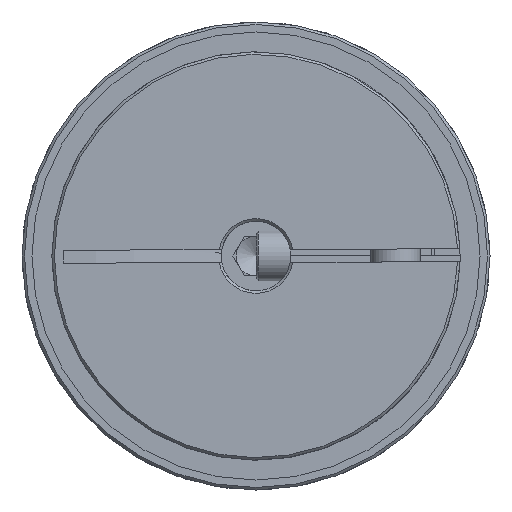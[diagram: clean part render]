
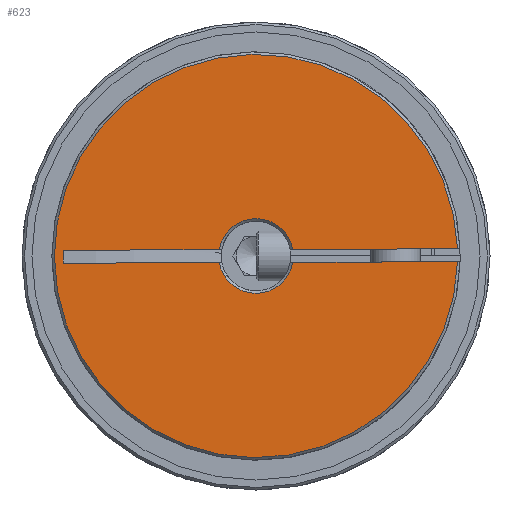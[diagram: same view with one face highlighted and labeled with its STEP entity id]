
A CAD part, left-side view. The second image highlights one B-rep face of the part: STEP entity #623.
In plain terms, the highlighted planar face has unit normal (-1, 0, 0).
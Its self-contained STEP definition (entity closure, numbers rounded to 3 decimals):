
#623 = ADVANCED_FACE( 'NONE', ( #1268 ), #1269, .F. );
#1268 = FACE_OUTER_BOUND( '', #1838, .T. );
#1269 = PLANE( '', #1839 );
#1838 = EDGE_LOOP( '', ( #2926, #2927, #2928, #2929, #2930, #2931, #2932, #2933 ) );
#1839 = AXIS2_PLACEMENT_3D( '', #2934, #2935, #2936 );
#2926 = ORIENTED_EDGE( '', *, *, #3384, .T. );
#2927 = ORIENTED_EDGE( '', *, *, #3386, .T. );
#2928 = ORIENTED_EDGE( '', *, *, #3387, .T. );
#2929 = ORIENTED_EDGE( '', *, *, #3392, .T. );
#2930 = ORIENTED_EDGE( '', *, *, #3393, .F. );
#2931 = ORIENTED_EDGE( '', *, *, #3394, .T. );
#2932 = ORIENTED_EDGE( '', *, *, #3395, .F. );
#2933 = ORIENTED_EDGE( '', *, *, #3371, .T. );
#2934 = CARTESIAN_POINT( '', ( 0., 7., 0. ) );
#2935 = DIRECTION( '', ( 1., 0., 0. ) );
#2936 = DIRECTION( '', ( 0., 1., 0. ) );
#3371 = EDGE_CURVE( 'NONE', #3892, #3896, #3898, .T. );
#3384 = EDGE_CURVE( 'NONE', #3896, #3919, #3921, .T. );
#3386 = EDGE_CURVE( 'NONE', #3919, #3922, #3924, .T. );
#3387 = EDGE_CURVE( 'NONE', #3922, #3925, #3926, .T. );
#3392 = EDGE_CURVE( 'NONE', #3925, #3934, #3935, .F. );
#3393 = EDGE_CURVE( 'NONE', #3936, #3934, #3937, .F. );
#3394 = EDGE_CURVE( 'NONE', #3936, #3938, #3939, .T. );
#3395 = EDGE_CURVE( 'NONE', #3892, #3938, #3940, .F. );
#3892 = VERTEX_POINT( 'NONE', #5003 );
#3896 = VERTEX_POINT( 'NONE', #5010 );
#3898 = LINE( '', #5012, #5013 );
#3919 = VERTEX_POINT( 'NONE', #5040 );
#3921 = LINE( '', #5045, #5046 );
#3922 = VERTEX_POINT( 'NONE', #5047 );
#3924 = CIRCLE( '', #5052, 7.5 );
#3925 = VERTEX_POINT( 'NONE', #5053 );
#3926 = LINE( '', #5054, #5055 );
#3934 = VERTEX_POINT( 'NONE', #5068 );
#3935 = CIRCLE( '', #5069, 40.5 );
#3936 = VERTEX_POINT( 'NONE', #5070 );
#3937 = LINE( '', #5071, #5072 );
#3938 = VERTEX_POINT( 'NONE', #5073 );
#3939 = CIRCLE( '', #5074, 7.5 );
#3940 = LINE( '', #5075, #5076 );
#5003 = CARTESIAN_POINT( '', ( 0., -1.3, -38.697 ) );
#5010 = CARTESIAN_POINT( '', ( 0., 1.3, -38.697 ) );
#5012 = CARTESIAN_POINT( '', ( 0., -1.3, -38.697 ) );
#5013 = VECTOR( '', #5758, 1000. );
#5040 = CARTESIAN_POINT( '', ( 0., 1.3, -7.386 ) );
#5045 = CARTESIAN_POINT( '', ( 0., 1.3, 0. ) );
#5046 = VECTOR( '', #5780, 1000. );
#5047 = CARTESIAN_POINT( '', ( 0., 1.3, 7.386 ) );
#5052 = AXIS2_PLACEMENT_3D( '', #5781, #5782, #5783 );
#5053 = CARTESIAN_POINT( '', ( 0., 1.3, 40.479 ) );
#5054 = CARTESIAN_POINT( '', ( 0., 1.3, 0. ) );
#5055 = VECTOR( '', #5784, 1000. );
#5068 = CARTESIAN_POINT( '', ( 0., -1.3, 40.479 ) );
#5069 = AXIS2_PLACEMENT_3D( '', #5790, #5791, #5792 );
#5070 = CARTESIAN_POINT( '', ( 0., -1.3, 7.386 ) );
#5071 = CARTESIAN_POINT( '', ( 0., -1.3, 11. ) );
#5072 = VECTOR( '', #5793, 1000. );
#5073 = CARTESIAN_POINT( '', ( 0., -1.3, -7.386 ) );
#5074 = AXIS2_PLACEMENT_3D( '', #5794, #5795, #5796 );
#5075 = CARTESIAN_POINT( '', ( 0., -1.3, 11. ) );
#5076 = VECTOR( '', #5797, 1000. );
#5758 = DIRECTION( '', ( 0., 1., 0. ) );
#5780 = DIRECTION( '', ( 0., 0., 1. ) );
#5781 = CARTESIAN_POINT( '', ( 0., 0., 0. ) );
#5782 = DIRECTION( '', ( 1., 0., 0. ) );
#5783 = DIRECTION( '', ( 0., 0., -1. ) );
#5784 = DIRECTION( '', ( 0., 0., 1. ) );
#5790 = CARTESIAN_POINT( '', ( 0., 0., 0. ) );
#5791 = DIRECTION( '', ( 1., 0., 0. ) );
#5792 = DIRECTION( '', ( 0., 0., -1. ) );
#5793 = DIRECTION( '', ( 0., 0., -1. ) );
#5794 = CARTESIAN_POINT( '', ( 0., 0., 0. ) );
#5795 = DIRECTION( '', ( 1., 0., 0. ) );
#5796 = DIRECTION( '', ( 0., 0., -1. ) );
#5797 = DIRECTION( '', ( 0., 0., -1. ) );
